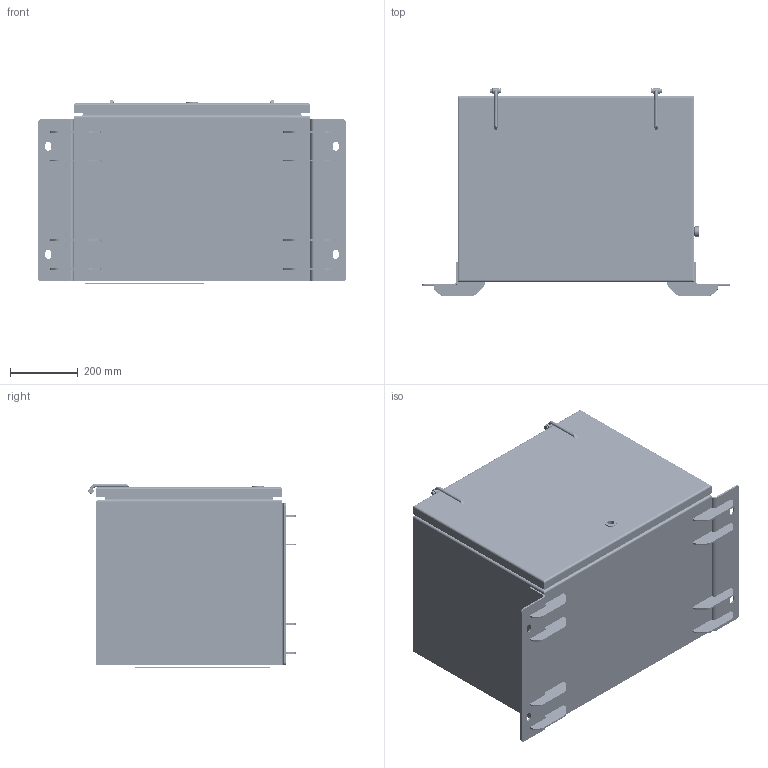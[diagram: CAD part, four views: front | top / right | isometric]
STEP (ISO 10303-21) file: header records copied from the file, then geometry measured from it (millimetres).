
FILE_DESCRIPTION(('CATIA V5 STEP Exchange'),'2;1');
FILE_NAME('F:\CALISMALAR\2020_CALISMALAR\N52_CALISMALAR\Sartname-T.Resim Yayınlama\Yüksek Gerilim Sandığı\E15.03.00000.AA_R01.stp','2022-03-07T06:51:30+00:00',('none'),('none'),'CATIA Version 5-6 Release 2016 SP5','CATIA V5 STEP AP203','none');
FILE_SCHEMA(('CONFIG_CONTROL_DESIGN'));
Products named in the file (13): E15.03.00000.AA_R01; BDZ_SANDIK_GOVDESI; BDZ_KAPAK_ON; KAPAK; Mentese_Parcalari; KİLİT_GOVDESI; BDZ_MENTESE_KOMPLE; BDZ_Alti_Kose_Kilit; BDZ_Alti_Kose_Kilit_SOL; Product1; BDZ_ Iolator; BDZ_HSR_100_KOMPLE; HVB
Assembly tree (81 placements, depth 5):
  E15.03.00000.AA_R01
    BDZ_SANDIK_GOVDESI
      #65
      BDZ_KAPAK_ON
        KAPAK
          #3056
          #3726
        Mentese_Parcalari
          #3922  x2
          #4129  x2
          #4304  x2
        KİLİT_GOVDESI
          #4725
          #6965
          #7465  x4
          #7679
          #7854
          #8023
          #8405
      BDZ_MENTESE_KOMPLE  x2
      BDZ_Alti_Kose_Kilit
      BDZ_Alti_Kose_Kilit_SOL
      Product1
        #8929  x4
        #9191  x2
        #9379  x3
        #9580  x4
      #9855  x2
      #10657
      #11612  x2
      BDZ_ Iolator  x2
        #11994
        #12656
        #12998
      #13176
      #14108
      #15929
      #16951  x8
      #17520
    BDZ_HSR_100_KOMPLE
    #18884
    HVB
      #202847
      #203675  x3
      #206310
      #208429  x2
      #214905
      #216927  x4
      #222891
      #224696
Bounding box: 910 x 613 x 545 mm (x, y, z)
Volume: 11181778.3 mm3; surface area: 7578891.2 mm2
Topology: 80 solids, 84 shells, 7737 faces, 22383 edges, 15108 vertices
Faces by surface type: plane 4288, cylinder 2272, cone 536, bspline 407, torus 222, sphere 12
Entity records: 234576 total; most frequent: CARTESIAN_POINT 70923, ORIENTED_EDGE 37670, DIRECTION 26634, EDGE_CURVE 18835, VERTEX_POINT 12882, AXIS2_PLACEMENT_3D 10461, VECTOR 10348, LINE 10348
